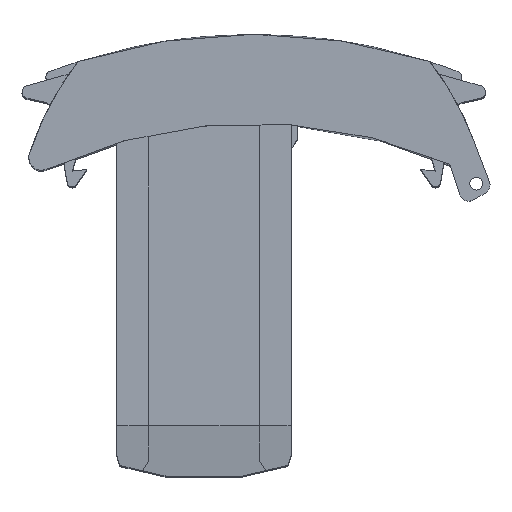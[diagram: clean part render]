
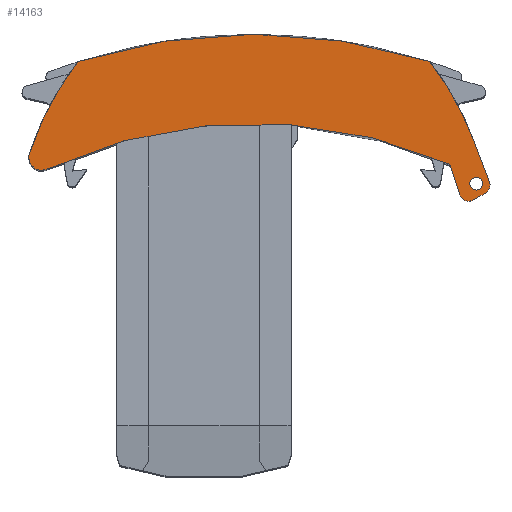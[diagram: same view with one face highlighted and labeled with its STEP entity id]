
A CAD part, top view. The second image highlights one B-rep face of the part: STEP entity #14163.
In plain terms, the highlighted planar face has unit normal (0, 0, 1).
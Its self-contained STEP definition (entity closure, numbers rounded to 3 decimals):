
#254=CARTESIAN_POINT('',(30.773,-6.399,105.95));
#255=VERTEX_POINT('',#254);
#262=CARTESIAN_POINT('',(-32.503,-7.176,105.95));
#263=VERTEX_POINT('',#262);
#264=CARTESIAN_POINT('',(0.,-77.2,105.95));
#265=DIRECTION('',(0.,-0.,1.));
#266=DIRECTION('',(-1.,-0.,0.));
#267=AXIS2_PLACEMENT_3D('',#264,#265,#266);
#268=CIRCLE('',#267,77.2);
#269=EDGE_CURVE('',#255,#263,#268,.T.);
#1343=CARTESIAN_POINT('',(-27.591,9.726,105.95));
#1344=VERTEX_POINT('',#1343);
#1351=CARTESIAN_POINT('',(27.591,9.726,105.95));
#1352=VERTEX_POINT('',#1351);
#1353=CARTESIAN_POINT('',(-0.,-77.2,105.95));
#1354=DIRECTION('',(-0.,0.,-1.));
#1355=DIRECTION('',(1.,0.,-0.));
#1356=AXIS2_PLACEMENT_3D('',#1353,#1354,#1355);
#1357=CIRCLE('',#1356,91.2);
#1358=EDGE_CURVE('',#1344,#1352,#1357,.T.);
#14048=CARTESIAN_POINT('',(33.937,-9.473,105.95));
#14049=VERTEX_POINT('',#14048);
#14058=CARTESIAN_POINT('',(34.937,-9.473,105.95));
#14059=DIRECTION('',(-0.,0.,-1.));
#14060=DIRECTION('',(-1.,-0.,0.));
#14061=AXIS2_PLACEMENT_3D('',#14058,#14059,#14060);
#14062=CIRCLE('',#14061,1.);
#14063=EDGE_CURVE('',#14049,#14049,#14062,.T.);
#14068=CARTESIAN_POINT('',(28.565,3.501,105.95));
#14069=DIRECTION('',(-0.,0.,-1.));
#14070=DIRECTION('',(-1.,-0.,0.));
#14071=AXIS2_PLACEMENT_3D('',#14068,#14069,#14070);
#14072=PLANE('',#14071);
#14073=CARTESIAN_POINT('',(34.405,-2.352,105.95));
#14074=VERTEX_POINT('',#14073);
#14075=CARTESIAN_POINT('',(37.,-9.132,105.95));
#14076=VERTEX_POINT('',#14075);
#14077=CARTESIAN_POINT('',(34.405,-2.352,105.95));
#14078=DIRECTION('',(0.357,-0.934,-0.));
#14079=VECTOR('',#14078,7.26);
#14080=LINE('',#14077,#14079);
#14081=EDGE_CURVE('',#14074,#14076,#14080,.T.);
#14082=ORIENTED_EDGE('',*,*,#14081,.F.);
#14083=CARTESIAN_POINT('',(-9.49,-19.153,105.95));
#14084=DIRECTION('',(-0.,0.,-1.));
#14085=DIRECTION('',(-1.,-0.,0.));
#14086=AXIS2_PLACEMENT_3D('',#14083,#14084,#14085);
#14087=CIRCLE('',#14086,47.);
#14088=EDGE_CURVE('',#1352,#14074,#14087,.T.);
#14089=ORIENTED_EDGE('',*,*,#14088,.F.);
#14090=ORIENTED_EDGE('',*,*,#1358,.F.);
#14091=CARTESIAN_POINT('',(-35.249,-4.749,105.95));
#14092=VERTEX_POINT('',#14091);
#14093=CARTESIAN_POINT('',(9.49,-19.153,105.95));
#14094=DIRECTION('',(0.,-0.,1.));
#14095=DIRECTION('',(1.,0.,-0.));
#14096=AXIS2_PLACEMENT_3D('',#14093,#14094,#14095);
#14097=CIRCLE('',#14096,47.);
#14098=EDGE_CURVE('',#1344,#14092,#14097,.T.);
#14099=ORIENTED_EDGE('',*,*,#14098,.T.);
#14100=CARTESIAN_POINT('',(-35.345,-5.362,105.95));
#14101=VERTEX_POINT('',#14100);
#14102=CARTESIAN_POINT('',(-33.345,-5.362,105.95));
#14103=DIRECTION('',(0.,-0.,1.));
#14104=DIRECTION('',(1.,0.,-0.));
#14105=AXIS2_PLACEMENT_3D('',#14102,#14103,#14104);
#14106=CIRCLE('',#14105,2.);
#14107=EDGE_CURVE('',#14092,#14101,#14106,.T.);
#14108=ORIENTED_EDGE('',*,*,#14107,.T.);
#14109=CARTESIAN_POINT('',(-33.345,-5.362,105.95));
#14110=DIRECTION('',(0.,-0.,1.));
#14111=DIRECTION('',(1.,0.,-0.));
#14112=AXIS2_PLACEMENT_3D('',#14109,#14110,#14111);
#14113=CIRCLE('',#14112,2.);
#14114=EDGE_CURVE('',#14101,#263,#14113,.T.);
#14115=ORIENTED_EDGE('',*,*,#14114,.T.);
#14116=ORIENTED_EDGE('',*,*,#269,.F.);
#14117=CARTESIAN_POINT('',(32.343,-11.192,105.95));
#14118=VERTEX_POINT('',#14117);
#14119=CARTESIAN_POINT('',(32.343,-11.192,105.95));
#14120=DIRECTION('',(-0.311,0.95,0.));
#14121=VECTOR('',#14120,5.044);
#14122=LINE('',#14119,#14121);
#14123=EDGE_CURVE('',#14118,#255,#14122,.T.);
#14124=ORIENTED_EDGE('',*,*,#14123,.F.);
#14125=CARTESIAN_POINT('',(34.518,-12.024,105.95));
#14126=VERTEX_POINT('',#14125);
#14127=CARTESIAN_POINT('',(33.768,-10.725,105.95));
#14128=DIRECTION('',(-0.,0.,-1.));
#14129=DIRECTION('',(-1.,-0.,0.));
#14130=AXIS2_PLACEMENT_3D('',#14127,#14128,#14129);
#14131=CIRCLE('',#14130,1.5);
#14132=EDGE_CURVE('',#14126,#14118,#14131,.T.);
#14133=ORIENTED_EDGE('',*,*,#14132,.F.);
#14134=CARTESIAN_POINT('',(36.349,-10.967,105.95));
#14135=VERTEX_POINT('',#14134);
#14136=CARTESIAN_POINT('',(36.349,-10.967,105.95));
#14137=DIRECTION('',(-0.866,-0.5,0.));
#14138=VECTOR('',#14137,2.114);
#14139=LINE('',#14136,#14138);
#14140=EDGE_CURVE('',#14135,#14126,#14139,.T.);
#14141=ORIENTED_EDGE('',*,*,#14140,.F.);
#14142=CARTESIAN_POINT('',(37.099,-9.668,105.95));
#14143=VERTEX_POINT('',#14142);
#14144=CARTESIAN_POINT('',(35.599,-9.668,105.95));
#14145=DIRECTION('',(-0.,0.,-1.));
#14146=DIRECTION('',(-1.,-0.,0.));
#14147=AXIS2_PLACEMENT_3D('',#14144,#14145,#14146);
#14148=CIRCLE('',#14147,1.5);
#14149=EDGE_CURVE('',#14143,#14135,#14148,.T.);
#14150=ORIENTED_EDGE('',*,*,#14149,.F.);
#14151=CARTESIAN_POINT('',(35.599,-9.668,105.95));
#14152=DIRECTION('',(-0.,0.,-1.));
#14153=DIRECTION('',(-1.,-0.,0.));
#14154=AXIS2_PLACEMENT_3D('',#14151,#14152,#14153);
#14155=CIRCLE('',#14154,1.5);
#14156=EDGE_CURVE('',#14076,#14143,#14155,.T.);
#14157=ORIENTED_EDGE('',*,*,#14156,.F.);
#14158=EDGE_LOOP('',(#14082,#14089,#14090,#14099,#14108,#14115,#14116,#14124,#14133,#14141,#14150,#14157));
#14159=FACE_BOUND('',#14158,.T.);
#14160=ORIENTED_EDGE('',*,*,#14063,.T.);
#14161=EDGE_LOOP('',(#14160));
#14162=FACE_BOUND('',#14161,.T.);
#14163=ADVANCED_FACE('',(#14159,#14162),#14072,.F.);
